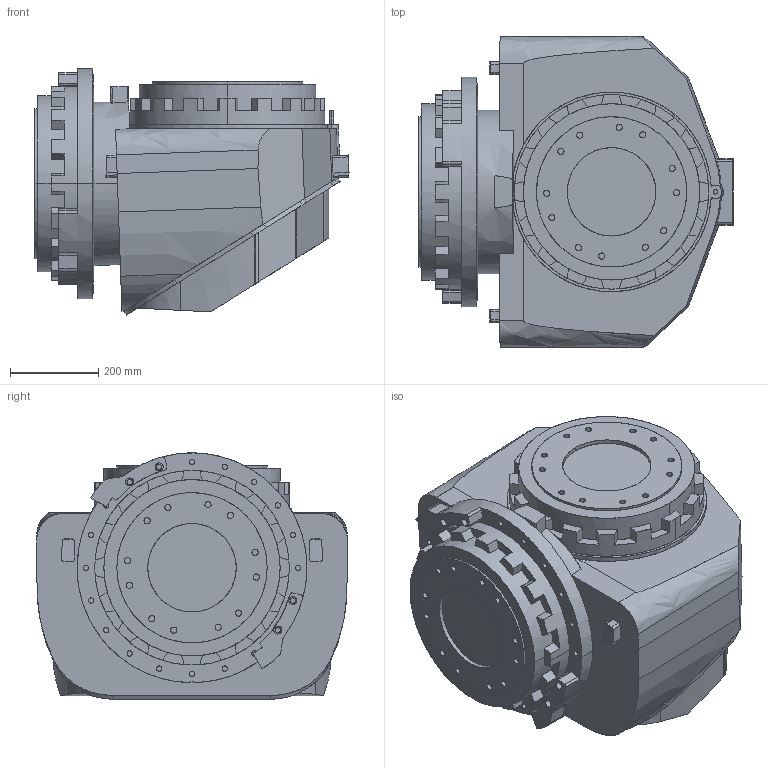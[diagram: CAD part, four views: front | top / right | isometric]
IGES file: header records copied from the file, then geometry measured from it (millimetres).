
Start section: SolidWorks IGES FILE using analytic representation for surfaces
Global section: file name: L:\Projekt\ABB Robotics\P685 PaintRobots2006 CAD-Models\CAD-Underlag IRB5500 TEMPO\SW2004\060711\Left\EngineSaveZip\iges\joints_links\IRB5500_12_T00F71B41V31H51_rev1_2.igs; native system: SolidWorks 2004 by SolidWorks Corporation; preprocessor: Version 5.3; author: joer; date: 060901.140236; units: millimetre
Bounding box: 711 x 705.66 x 557.36 mm (x, y, z)
Surface area: 2162377.2 mm2 (no closed solid volume)
Topology: 0 solids, 0 shells, 471 faces, 7845 edges, 7845 vertices
Faces by surface type: bspline 321, revolution 150
